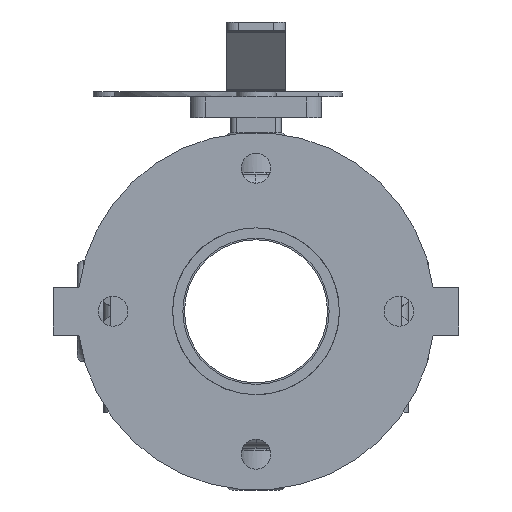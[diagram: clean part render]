
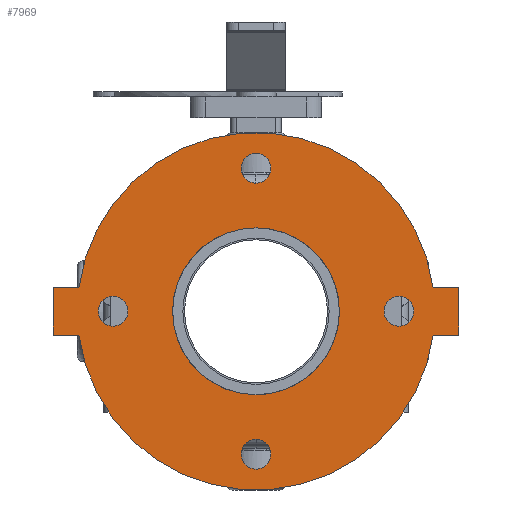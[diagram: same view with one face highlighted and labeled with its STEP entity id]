
A CAD part, front view. The second image highlights one B-rep face of the part: STEP entity #7969.
In plain terms, the highlighted planar face has unit normal (0, -1, 0) as drawn and (0, 0, -1) by its records, which use the part's own axes.
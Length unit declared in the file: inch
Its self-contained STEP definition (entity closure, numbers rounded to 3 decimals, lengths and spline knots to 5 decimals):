
#299=FACE_BOUND('',#1050,.T.);
#300=FACE_BOUND('',#1051,.T.);
#301=FACE_BOUND('',#1052,.T.);
#302=FACE_BOUND('',#1053,.T.);
#303=FACE_BOUND('',#1054,.T.);
#385=PLANE('',#8602);
#602=FACE_OUTER_BOUND('',#1049,.T.);
#1049=EDGE_LOOP('',(#5055,#5056,#5057,#5058,#5059,#5060,#5061,#5062));
#1050=EDGE_LOOP('',(#5063));
#1051=EDGE_LOOP('',(#5064));
#1052=EDGE_LOOP('',(#5065));
#1053=EDGE_LOOP('',(#5066));
#1054=EDGE_LOOP('',(#5067,#5068));
#1582=LINE('',#11938,#2147);
#1583=LINE('',#11940,#2148);
#1584=LINE('',#11942,#2149);
#1585=LINE('',#11946,#2150);
#1586=LINE('',#11948,#2151);
#1587=LINE('',#11949,#2152);
#2147=VECTOR('',#9542,0.3937);
#2148=VECTOR('',#9543,0.3937);
#2149=VECTOR('',#9544,0.3937);
#2150=VECTOR('',#9547,0.3937);
#2151=VECTOR('',#9548,0.3937);
#2152=VECTOR('',#9549,0.3937);
#2709=CIRCLE('',#8592,0.3125);
#2711=CIRCLE('',#8595,0.3125);
#2713=CIRCLE('',#8598,0.3125);
#2715=CIRCLE('',#8601,0.3125);
#2716=CIRCLE('',#8603,3.75);
#2717=CIRCLE('',#8604,3.75);
#2718=CIRCLE('',#8605,1.75);
#2719=CIRCLE('',#8606,1.75);
#3136=VERTEX_POINT('',#11912);
#3138=VERTEX_POINT('',#11918);
#3140=VERTEX_POINT('',#11924);
#3142=VERTEX_POINT('',#11930);
#3143=VERTEX_POINT('',#11934);
#3144=VERTEX_POINT('',#11935);
#3145=VERTEX_POINT('',#11937);
#3146=VERTEX_POINT('',#11939);
#3147=VERTEX_POINT('',#11941);
#3148=VERTEX_POINT('',#11943);
#3149=VERTEX_POINT('',#11945);
#3150=VERTEX_POINT('',#11947);
#3151=VERTEX_POINT('',#11950);
#3152=VERTEX_POINT('',#11951);
#3889=EDGE_CURVE('',#3136,#3136,#2709,.T.);
#3892=EDGE_CURVE('',#3138,#3138,#2711,.T.);
#3895=EDGE_CURVE('',#3140,#3140,#2713,.T.);
#3898=EDGE_CURVE('',#3142,#3142,#2715,.T.);
#3899=EDGE_CURVE('',#3143,#3144,#2716,.T.);
#3900=EDGE_CURVE('',#3144,#3145,#1582,.T.);
#3901=EDGE_CURVE('',#3145,#3146,#1583,.T.);
#3902=EDGE_CURVE('',#3146,#3147,#1584,.T.);
#3903=EDGE_CURVE('',#3147,#3148,#2717,.T.);
#3904=EDGE_CURVE('',#3148,#3149,#1585,.T.);
#3905=EDGE_CURVE('',#3149,#3150,#1586,.T.);
#3906=EDGE_CURVE('',#3150,#3143,#1587,.T.);
#3907=EDGE_CURVE('',#3151,#3152,#2718,.T.);
#3908=EDGE_CURVE('',#3152,#3151,#2719,.T.);
#5055=ORIENTED_EDGE('',*,*,#3899,.T.);
#5056=ORIENTED_EDGE('',*,*,#3900,.T.);
#5057=ORIENTED_EDGE('',*,*,#3901,.T.);
#5058=ORIENTED_EDGE('',*,*,#3902,.T.);
#5059=ORIENTED_EDGE('',*,*,#3903,.T.);
#5060=ORIENTED_EDGE('',*,*,#3904,.T.);
#5061=ORIENTED_EDGE('',*,*,#3905,.T.);
#5062=ORIENTED_EDGE('',*,*,#3906,.T.);
#5063=ORIENTED_EDGE('',*,*,#3889,.T.);
#5064=ORIENTED_EDGE('',*,*,#3892,.T.);
#5065=ORIENTED_EDGE('',*,*,#3895,.T.);
#5066=ORIENTED_EDGE('',*,*,#3898,.T.);
#5067=ORIENTED_EDGE('',*,*,#3907,.T.);
#5068=ORIENTED_EDGE('',*,*,#3908,.T.);
#7969=ADVANCED_FACE('',(#602,#299,#300,#301,#302,#303),#385,.T.);
#8592=AXIS2_PLACEMENT_3D('',#11914,#9515,#9516);
#8595=AXIS2_PLACEMENT_3D('',#11920,#9522,#9523);
#8598=AXIS2_PLACEMENT_3D('',#11926,#9529,#9530);
#8601=AXIS2_PLACEMENT_3D('',#11932,#9536,#9537);
#8602=AXIS2_PLACEMENT_3D('',#11933,#9538,#9539);
#8603=AXIS2_PLACEMENT_3D('',#11936,#9540,#9541);
#8604=AXIS2_PLACEMENT_3D('',#11944,#9545,#9546);
#8605=AXIS2_PLACEMENT_3D('',#11952,#9550,#9551);
#8606=AXIS2_PLACEMENT_3D('',#11953,#9552,#9553);
#9515=DIRECTION('center_axis',(0.,0.,1.));
#9516=DIRECTION('ref_axis',(0.,1.,0.));
#9522=DIRECTION('center_axis',(0.,0.,1.));
#9523=DIRECTION('ref_axis',(1.,0.,0.));
#9529=DIRECTION('center_axis',(0.,0.,1.));
#9530=DIRECTION('ref_axis',(0.,-1.,0.));
#9536=DIRECTION('center_axis',(0.,0.,1.));
#9537=DIRECTION('ref_axis',(-1.,0.,0.));
#9538=DIRECTION('center_axis',(0.,0.,-1.));
#9539=DIRECTION('ref_axis',(-1.,0.,0.));
#9540=DIRECTION('center_axis',(0.,0.,-1.));
#9541=DIRECTION('ref_axis',(-1.,0.,0.));
#9542=DIRECTION('',(0.,1.,0.));
#9543=DIRECTION('',(1.,0.,0.));
#9544=DIRECTION('',(0.,-1.,0.));
#9545=DIRECTION('center_axis',(0.,0.,-1.));
#9546=DIRECTION('ref_axis',(-1.,0.,0.));
#9547=DIRECTION('',(0.,-1.,0.));
#9548=DIRECTION('',(-1.,0.,0.));
#9549=DIRECTION('',(0.,1.,0.));
#9550=DIRECTION('center_axis',(0.,0.,1.));
#9551=DIRECTION('ref_axis',(-1.,0.,0.));
#9552=DIRECTION('center_axis',(0.,0.,1.));
#9553=DIRECTION('ref_axis',(-1.,0.,0.));
#11912=CARTESIAN_POINT('',(0.,2.6875,-0.5));
#11914=CARTESIAN_POINT('Origin',(0.,3.,-0.5));
#11918=CARTESIAN_POINT('',(2.6875,0.,-0.5));
#11920=CARTESIAN_POINT('Origin',(3.,0.,-0.5));
#11924=CARTESIAN_POINT('',(0.,-2.6875,-0.5));
#11926=CARTESIAN_POINT('Origin',(0.,-3.,-0.5));
#11930=CARTESIAN_POINT('',(-2.6875,0.,-0.5));
#11932=CARTESIAN_POINT('Origin',(-3.,0.,-0.5));
#11933=CARTESIAN_POINT('Origin',(0.,0.,-0.5));
#11934=CARTESIAN_POINT('',(-0.5,-3.71652,-0.5));
#11935=CARTESIAN_POINT('',(-0.5,3.71652,-0.5));
#11936=CARTESIAN_POINT('Origin',(0.,0.,-0.5));
#11937=CARTESIAN_POINT('',(-0.5,4.25,-0.5));
#11938=CARTESIAN_POINT('',(-0.5,-4.25,-0.5));
#11939=CARTESIAN_POINT('',(0.5,4.25,-0.5));
#11940=CARTESIAN_POINT('',(-0.5,4.25,-0.5));
#11941=CARTESIAN_POINT('',(0.5,3.71652,-0.5));
#11942=CARTESIAN_POINT('',(0.5,4.25,-0.5));
#11943=CARTESIAN_POINT('',(0.5,-3.71652,-0.5));
#11944=CARTESIAN_POINT('Origin',(0.,0.,-0.5));
#11945=CARTESIAN_POINT('',(0.5,-4.25,-0.5));
#11946=CARTESIAN_POINT('',(0.5,4.25,-0.5));
#11947=CARTESIAN_POINT('',(-0.5,-4.25,-0.5));
#11948=CARTESIAN_POINT('',(0.5,-4.25,-0.5));
#11949=CARTESIAN_POINT('',(-0.5,-4.25,-0.5));
#11950=CARTESIAN_POINT('',(0.5,1.67705,-0.5));
#11951=CARTESIAN_POINT('',(1.75,0.,-0.5));
#11952=CARTESIAN_POINT('Origin',(0.,0.,-0.5));
#11953=CARTESIAN_POINT('Origin',(0.,0.,-0.5));
